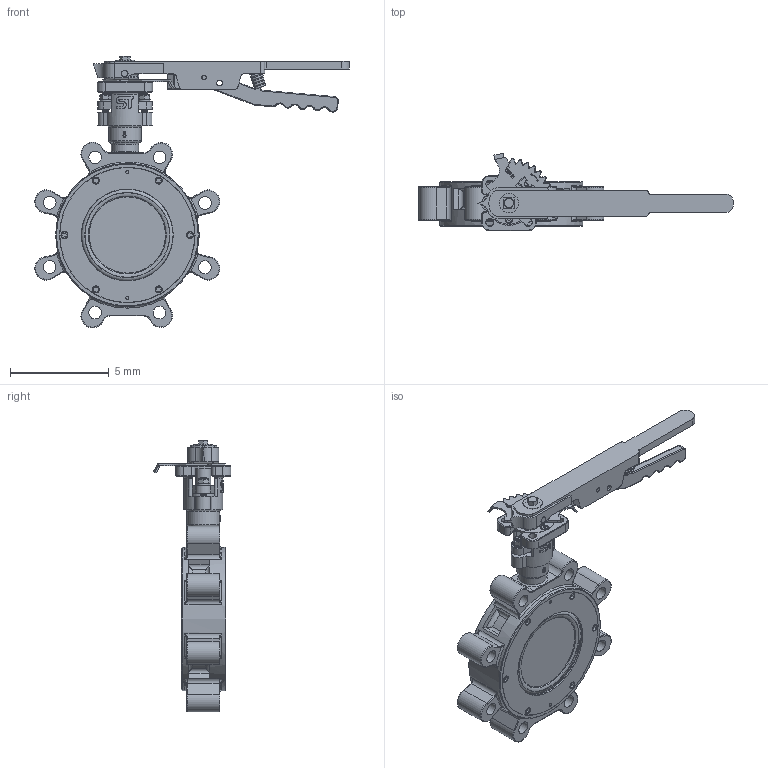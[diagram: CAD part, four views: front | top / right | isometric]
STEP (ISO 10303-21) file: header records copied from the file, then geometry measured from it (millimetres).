
FILE_DESCRIPTION(('Open CASCADE Model'),'2;1');
FILE_NAME('Open CASCADE Shape Model','2022-07-22T11:26:11',('Author'),( 'Open CASCADE'),'Open CASCADE STEP processor 7.3','Open CASCADE 7.3' ,'Unknown');
FILE_SCHEMA(('AUTOMOTIVE_DESIGN { 1 0 10303 214 1 1 1 1 }'));
Length unit declared in the file: millimetre
Products named in the file (1405): Open CASCADE STEP translator 7.3 1; Open CASCADE STEP translator 7.3 1.1; Open CASCADE STEP translator 7.3 1.2; Open CASCADE STEP translator 7.3 1.3; Open CASCADE STEP translator 7.3 1.4; Open CASCADE STEP translator 7.3 1.5; Open CASCADE STEP translator 7.3 1.6; Open CASCADE STEP translator 7.3 1.7; Open CASCADE STEP translator 7.3 1.8; Open CASCADE STEP translator 7.3 1.9; Open CASCADE STEP translator 7.3 1.10; Open CASCADE STEP translator 7.3 1.11; Open CASCADE STEP translator 7.3 1.12; Open CASCADE STEP translator 7.3 1.13; Open CASCADE STEP translator 7.3 1.14; Open CASCADE STEP translator 7.3 1.15; Open CASCADE STEP translator 7.3 1.16; Open CASCADE STEP translator 7.3 1.17; Open CASCADE STEP translator 7.3 1.18; Open CASCADE STEP translator 7.3 1.19; Open CASCADE STEP translator 7.3 1.20; Open CASCADE STEP translator 7.3 1.21; Open CASCADE STEP translator 7.3 1.22; Open CASCADE STEP translator 7.3 1.23; Open CASCADE STEP translator 7.3 1.24; Open CASCADE STEP translator 7.3 1.25; Open CASCADE STEP translator 7.3 1.26; Open CASCADE STEP translator 7.3 1.27; Open CASCADE STEP translator 7.3 1.28; Open CASCADE STEP translator 7.3 1.29; Open CASCADE STEP translator 7.3 1.30; Open CASCADE STEP translator 7.3 1.31; Open CASCADE STEP translator 7.3 1.32; Open CASCADE STEP translator 7.3 1.33; Open CASCADE STEP translator 7.3 1.34; Open CASCADE STEP translator 7.3 1.35; Open CASCADE STEP translator 7.3 1.36; Open CASCADE STEP translator 7.3 1.37; Open CASCADE STEP translator 7.3 1.38; Open CASCADE STEP translator 7.3 1.39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
Assembly tree (1404 placements, depth 3):
  Open CASCADE STEP translator 7.3 1
    Open CASCADE STEP translator 7.3 1.1
    Open CASCADE STEP translator 7.3 1.2
    Open CASCADE STEP translator 7.3 1.3
    Open CASCADE STEP translator 7.3 1.4
    Open CASCADE STEP translator 7.3 1.5
    Open CASCADE STEP translator 7.3 1.6
    Open CASCADE STEP translator 7.3 1.7
    Open CASCADE STEP translator 7.3 1.8
    Open CASCADE STEP translator 7.3 1.9
    Open CASCADE STEP translator 7.3 1.10
    Open CASCADE STEP translator 7.3 1.11
    Open CASCADE STEP translator 7.3 1.12
    Open CASCADE STEP translator 7.3 1.13
    Open CASCADE STEP translator 7.3 1.14
    Open CASCADE STEP translator 7.3 1.15
    Open CASCADE STEP translator 7.3 1.16
    Open CASCADE STEP translator 7.3 1.17
    Open CASCADE STEP translator 7.3 1.18
    Open CASCADE STEP translator 7.3 1.19
    Open CASCADE STEP translator 7.3 1.20
    Open CASCADE STEP translator 7.3 1.21
    Open CASCADE STEP translator 7.3 1.22
    Open CASCADE STEP translator 7.3 1.23
    Open CASCADE STEP translator 7.3 1.24
    Open CASCADE STEP translator 7.3 1.25
    Open CASCADE STEP translator 7.3 1.26
    Open CASCADE STEP translator 7.3 1.27
    Open CASCADE STEP translator 7.3 1.28
    Open CASCADE STEP translator 7.3 1.29
    Open CASCADE STEP translator 7.3 1.30
    Open CASCADE STEP translator 7.3 1.31
    Open CASCADE STEP translator 7.3 1.32
    Open CASCADE STEP translator 7.3 1.33
    Open CASCADE STEP translator 7.3 1.34
    Open CASCADE STEP translator 7.3 1.35
    Open CASCADE STEP translator 7.3 1.36
    Open CASCADE STEP translator 7.3 1.37
    Open CASCADE STEP translator 7.3 1.38
    Open CASCADE STEP translator 7.3 1.39
    Open CASCADE STEP translator 7.3 1.40
    Open CASCADE STEP translator 7.3 1.41
    Open CASCADE STEP translator 7.3 1.42
    Open CASCADE STEP translator 7.3 1.43
    Open CASCADE STEP translator 7.3 1.44
    Open CASCADE STEP translator 7.3 1.45
    Open CASCADE STEP translator 7.3 1.46
    Open CASCADE STEP translator 7.3 1.47
    Open CASCADE STEP translator 7.3 1.48
    Open CASCADE STEP translator 7.3 1.49
    Open CASCADE STEP translator 7.3 1.50
    Open CASCADE STEP translator 7.3 1.51
    Open CASCADE STEP translator 7.3 1.52
    Open CASCADE STEP translator 7.3 1.53
    Open CASCADE STEP translator 7.3 1.54
    Open CASCADE STEP translator 7.3 1.55
    Open CASCADE STEP translator 7.3 1.56
    Open CASCADE STEP translator 7.3 1.57
    Open CASCADE STEP translator 7.3 1.58
    Open CASCADE STEP translator 7.3 1.59
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Bounding box: 15.92 x 3.93 x 13.75 mm (x, y, z)
Surface area: 615.2 mm2 (no closed solid volume)
Topology: 0 solids, 1403 shells, 1403 faces, 6281 edges, 5973 vertices
Faces by surface type: plane 559, cylinder 417, cone 162, torus 159, bspline 91, sphere 15
Full cylindrical faces by diameter (mm): 0.163 x2, 0.165 x2, 0.197 x2, 0.217 x12, 0.236 x8, 0.295 x3, 0.315 x10, 0.33 x1, 0.355 x12, 0.394 x9, 0.63 x1, 0.642 x8, 0.709 x1, 0.749 x6, 0.76 x1, 0.768 x1, 0.788 x1, 0.812 x2, 0.985 x1, 1.206 x2, 1.221 x4, 1.379 x1, 1.655 x1, 4.649 x1, 4.807 x1, 4.823 x1, 4.878 x1, 5.102 x1, 5.122 x1, 5.311 x1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
Entity records: 208896 total; most frequent: CARTESIAN_POINT 97765, DIRECTION 18702, LINE 7658, VECTOR 7658, ORIENTED_EDGE 6527, PCURVE 6527, DEFINITIONAL_REPRESENTATION 6527, EDGE_CURVE 6250
